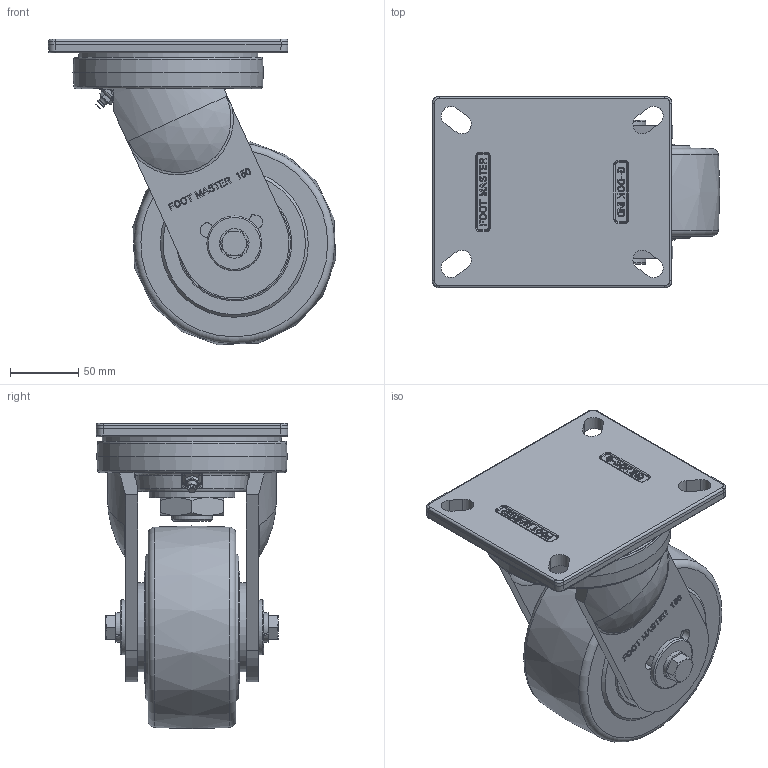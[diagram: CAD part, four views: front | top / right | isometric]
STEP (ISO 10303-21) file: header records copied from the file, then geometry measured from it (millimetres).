
FILE_DESCRIPTION(/* description */ (''),/* implementation_level */ '2;1');
FILE_NAME(/* name */ 'Y:\1.기술연구소\2.연구개발 진행중\133.고하중캐스터 브레이크 타입 변경건_2025.11.03\1.도면\4.홈페이지용 도면\01. 3D\GXT-150 SERIES\GXT-150-STEP\GXT-150-ASF-HUD.stp',/* time_stamp */ '2026-07-22T11:26:38+09:00',/* author */ ('장용하'),/* organization */ (''),/* preprocessor_version */ 'ST-DEVELOPER v18.1',/* originating_system */ 'Autodesk Inventor 2021',/* authorisation */ '');
FILE_SCHEMA (('CONFIG_CONTROL_DESIGN'));
Length unit declared in the file: millimetre
Products named in the file (1): GXT-150-ASF-HUD
Bounding box: 209.81 x 140 x 223.01 mm (x, y, z)
Volume: 2153307.2 mm3; surface area: 186064.3 mm2
Topology: 1 solids, 1 shells, 981 faces, 2638 edges, 1733 vertices
Faces by surface type: plane 477, bspline 359, cylinder 92, cone 29, torus 20, sphere 4
Full cylindrical faces by diameter (mm): 12 x2, 21.5 x2, 30 x1, 40 x2, 62.5 x1, 65 x2, 131.086 x1
Entity records: 32100 total; most frequent: CARTESIAN_POINT 9726, ORIENTED_EDGE 5272, DIRECTION 3488, EDGE_CURVE 2636, VERTEX_POINT 1733, LINE 1524, VECTOR 1524, EDGE_LOOP 1077
